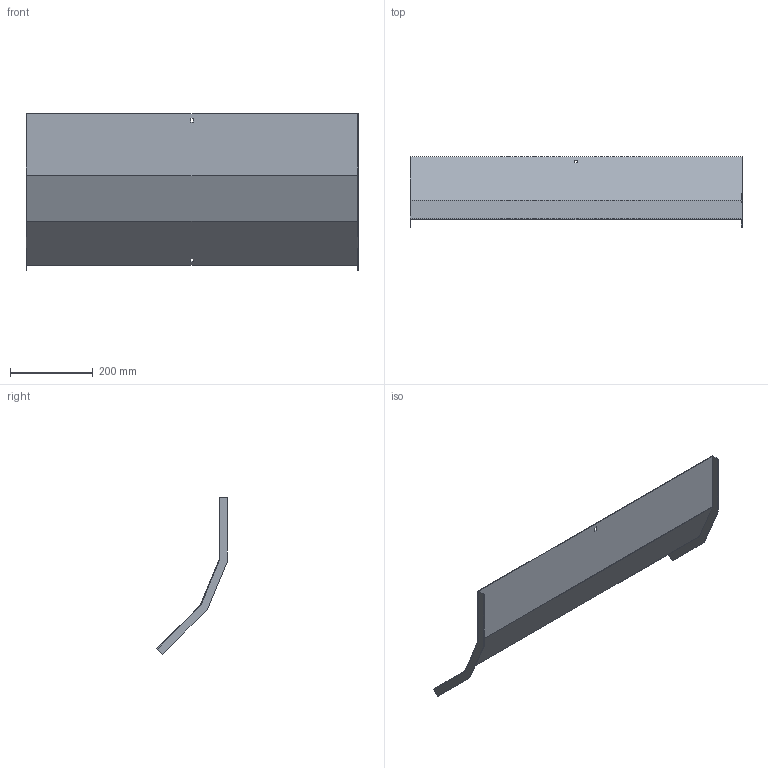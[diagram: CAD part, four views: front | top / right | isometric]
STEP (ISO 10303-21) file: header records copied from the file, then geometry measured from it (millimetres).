
FILE_DESCRIPTION (( 'STEP AP214' ), '1' );
FILE_NAME ('A2X31N3R800X.step', '2025-03-20T09:41:21', ( '' ), ( '' ), 'SwSTEP 2.0', 'SolidWorks 2023', '' );
FILE_SCHEMA (( 'AUTOMOTIVE_DESIGN' ));
Length unit declared in the file: millimetre
Products named in the file (1): A2X31N3R800X
Bounding box: 803 x 171.43 x 379.72 mm (x, y, z)
Volume: 528328 mm3; surface area: 708351.7 mm2
Topology: 1 solids, 1 shells, 26 faces, 72 edges, 48 vertices
Faces by surface type: plane 26
Entity records: 847 total; most frequent: CARTESIAN_POINT 147, ORIENTED_EDGE 144, DIRECTION 126, LINE 72, VECTOR 72, EDGE_CURVE 72, VERTEX_POINT 48, EDGE_LOOP 30
